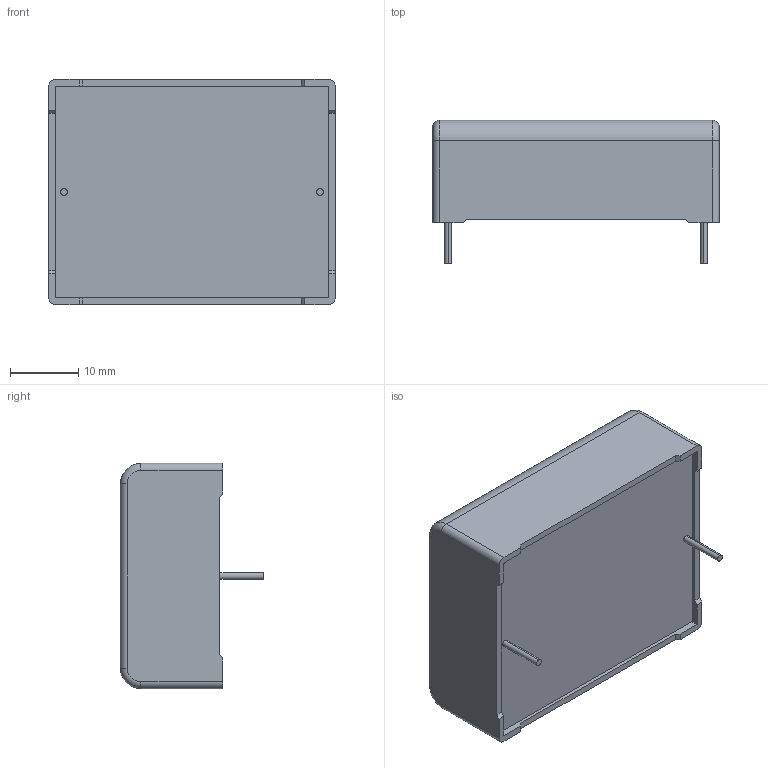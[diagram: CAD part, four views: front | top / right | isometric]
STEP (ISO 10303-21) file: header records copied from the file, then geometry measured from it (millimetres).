
FILE_DESCRIPTION (( 'STEP AP203' ), '1' );
FILE_NAME ('DC_Link_33x15x42_2pins.step', '2017-04-03T16:00:10', ( 'work' ), ( 'Hewlett-Packard Company' ), 'SwSTEP 2.0', 'SolidWorks 2017', '' );
FILE_SCHEMA (( 'CONFIG_CONTROL_DESIGN' ));
Length unit declared in the file: millimetre
Products named in the file (1): DC_Link_33x15x42_2pins
Bounding box: 42 x 21 x 33 mm (x, y, z)
Volume: 19317.1 mm3; surface area: 4928.5 mm2
Topology: 1 solids, 1 shells, 116 faces, 307 edges, 202 vertices
Faces by surface type: plane 80, cylinder 16, bspline 16, torus 4
Entity records: 4332 total; most frequent: CARTESIAN_POINT 1450, ORIENTED_EDGE 614, DIRECTION 513, EDGE_CURVE 307, LINE 239, VECTOR 239, VERTEX_POINT 202, AXIS2_PLACEMENT_3D 137
